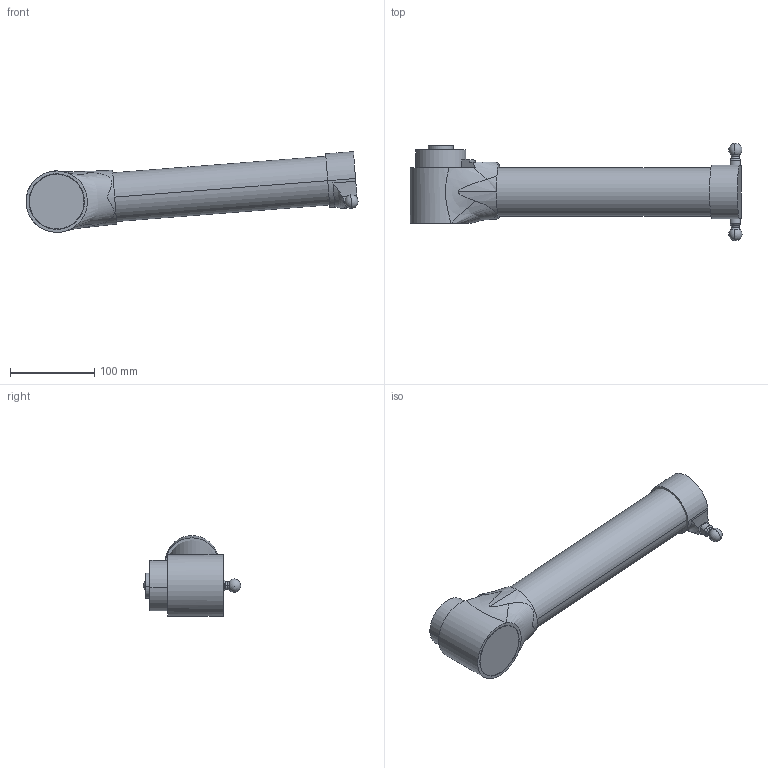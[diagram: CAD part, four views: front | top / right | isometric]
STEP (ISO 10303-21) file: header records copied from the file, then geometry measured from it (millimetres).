
FILE_DESCRIPTION (( 'STEP AP214' ), '1' );
FILE_NAME ('IRB360_X-1130-WDS-4D_rev03_UA1_CAD.STEP', '2023-12-04T10:19:56', ( '' ), ( '' ), 'SwSTEP 2.0', 'SolidWorks 2022', '' );
FILE_SCHEMA (( 'AUTOMOTIVE_DESIGN' ));
Length unit declared in the file: millimetre
Products named in the file (1): IRB360_X-1130-WDS-4D_rev03_UA1_CAD
Bounding box: 394.44 x 115.88 x 95.86 mm (x, y, z)
Volume: 1397325.2 mm3; surface area: 128598.5 mm2
Topology: 6 solids, 6 shells, 86 faces, 206 edges, 132 vertices
Faces by surface type: cylinder 27, plane 27, cone 13, torus 11, sphere 4, bspline 4
Entity records: 3903 total; most frequent: CARTESIAN_POINT 1689, DIRECTION 428, ORIENTED_EDGE 392, EDGE_CURVE 196, AXIS2_PLACEMENT_3D 183, VERTEX_POINT 126, CIRCLE 100, EDGE_LOOP 92
